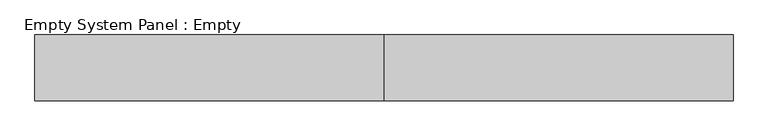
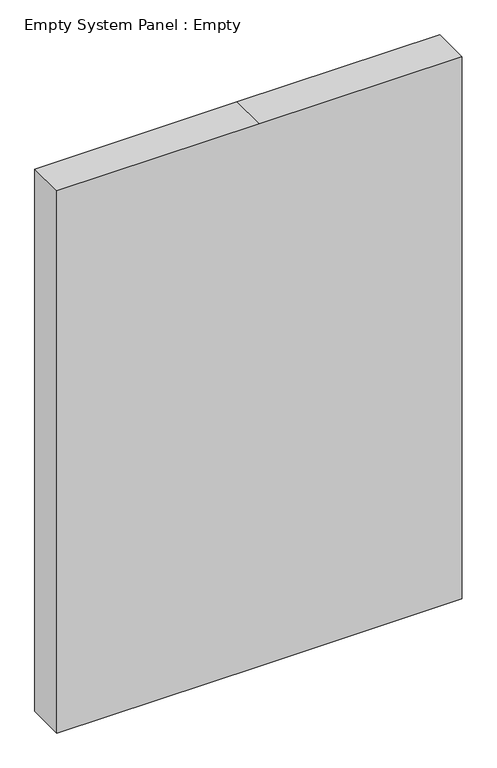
"""IFC4 building model written with IfcOpenShell, lengths in millimetres: plate geometry, Empty System Panel : Empty."""

from ifc_helpers import new_model, si_unit, frame, origin, place, context, project, spatial, polyline, outline, extrude, source, transform, mapped, element, save


def empty_system_panel_empty_e7d6fffa(model_context):
    return source(origin(), model_context, "Body", "SweptSolid", [
        extrude(outline(polyline([(0.0, -530.2), (0.0, 0.0), (0.0, 530.2), (1500.0, 530.2), (1500.0, 0.0), (1500.0, -530.2), (0.0, -530.2)])), frame((0.0, -150.0, 0.0), z_axis=(0.0, 1.0, 0.0), x_axis=(0.0, 0.0, 1.0)), (0.0, 0.0, 1.0), 100.0),
    ])


if __name__ == "__main__":
    model = new_model("IFC4")
    model_context = context("Model", 3, world=origin())
    ifc_project = project(units=[si_unit("LENGTHUNIT", "METRE", prefix="MILLI")], contexts=[model_context])
    site = spatial("IfcSite", under=ifc_project)
    building = spatial("IfcBuilding", under=site)
    placement = place(None, origin())
    empty_system_panel_empty_shape = empty_system_panel_empty_e7d6fffa(model_context)
    element("IfcPlate", 1, ObjectType="Empty System Panel : Empty", at=placement, inside=building, context=model_context, shape_type="MappedRepresentation", body=[
        mapped(empty_system_panel_empty_shape, transform((0.0, 0.0, 0.0), x_axis=(1.0, 0.0, 0.0), y_axis=(0.0, 1.0, 0.0), z_axis=(0.0, 0.0, 1.0))),
    ])
    save(model, "model.ifc")
